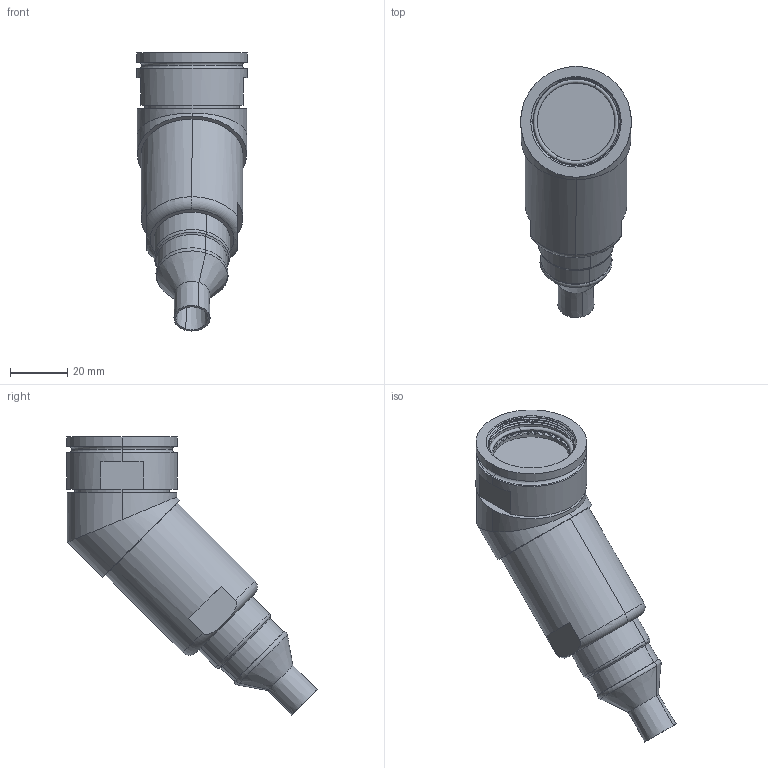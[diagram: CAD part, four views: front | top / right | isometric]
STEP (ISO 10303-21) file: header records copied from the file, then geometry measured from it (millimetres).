
FILE_DESCRIPTION (( 'STEP AP214' ), '1' );
FILE_NAME ('Q38SHELL-45X-21-XXXX-HX.STEP', '2025-09-25T20:02:11', ( '' ), ( '' ), 'SwSTEP 2.0', 'SolidWorks 2024', '' );
FILE_SCHEMA (( 'AUTOMOTIVE_DESIGN' ));
Length unit declared in the file: millimetre
Products named in the file (1): Q38SHELL-45X-21-XXXX-HX
Bounding box: 38.58 x 87.33 x 96.83 mm (x, y, z)
Volume: 88062.7 mm3; surface area: 17991.7 mm2
Topology: 2 solids, 2 shells, 243 faces, 650 edges, 424 vertices
Faces by surface type: plane 169, cylinder 39, cone 18, torus 14, bspline 3
Entity records: 8618 total; most frequent: CARTESIAN_POINT 2773, ORIENTED_EDGE 1300, DIRECTION 1224, EDGE_CURVE 650, AXIS2_PLACEMENT_3D 505, VERTEX_POINT 424, CIRCLE 264, EDGE_LOOP 258
